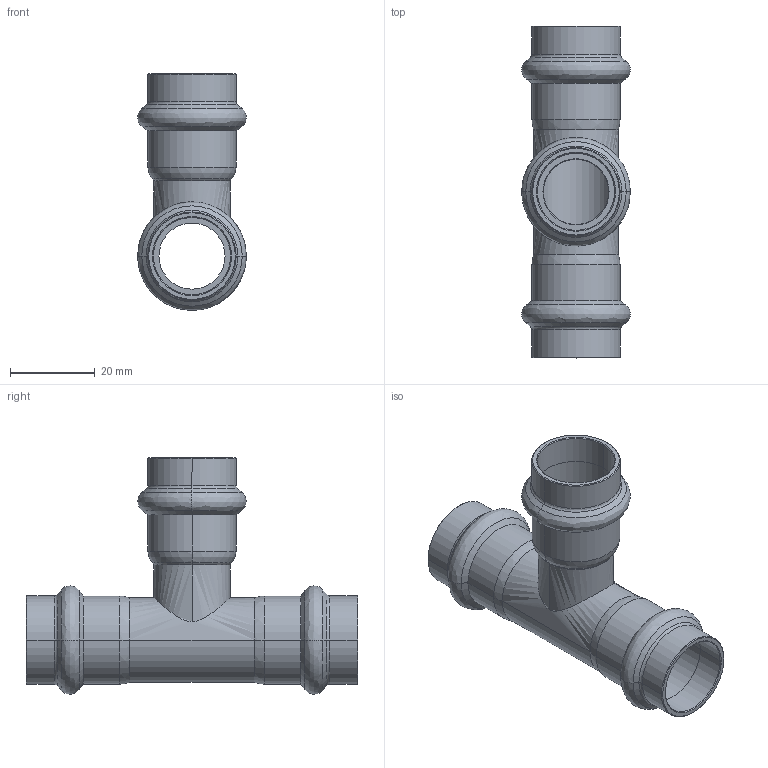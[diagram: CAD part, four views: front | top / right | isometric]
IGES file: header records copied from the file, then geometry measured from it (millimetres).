
Start section: Elysium IGES Interface
Global section: file name: C:\Users\Wallenburg\Desktop\3d modellen sudo\S-Pr VP\SP6130V\6130VW18.igs; native system: CoCreate Modeling 17.00A  17-Jun-2010; preprocessor: CoCreate IGES_3D V2.2; author: Unknown; organization: Unknown; date: 20130117.090644; units: millimetre
Bounding box: 25.7 x 78.51 x 56 mm (x, y, z)
Volume: 10857.5 mm3; surface area: 14435.4 mm2
Topology: 1 solids, 1 shells, 124 faces, 253 edges, 139 vertices
Faces by surface type: bspline 124
